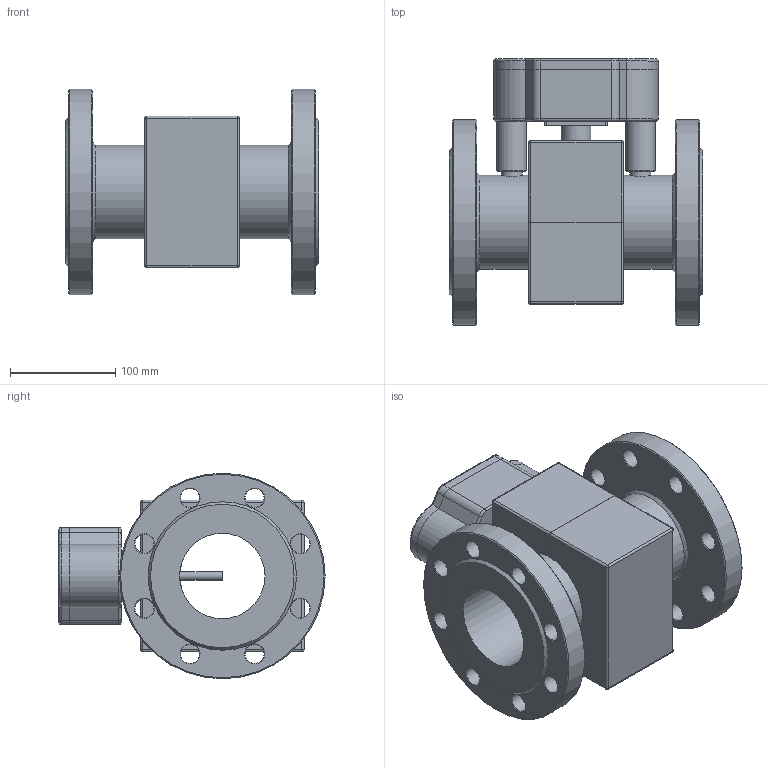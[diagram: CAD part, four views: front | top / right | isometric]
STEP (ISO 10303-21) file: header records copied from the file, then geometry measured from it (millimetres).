
FILE_DESCRIPTION(('STEP AP214'), '1');
FILE_NAME('80 È6', '2015-07-24T11:41:41', (''), (''), 'ASCON STEP Converter 1.3', 'ASCON Math Kernel', '');
FILE_SCHEMA(('AUTOMOTIVE_DESIGN { 1 0 10303 214 3 1 1}'));
Length unit declared in the file: millimetre
Products named in the file (1): 6
Bounding box: 240 x 252.5 x 195 mm (x, y, z)
Volume: 3501779.2 mm3; surface area: 388501.4 mm2
Topology: 2 solids, 2 shells, 493 faces, 1307 edges, 832 vertices
Faces by surface type: cylinder 253, plane 174, cone 46, torus 12, sphere 8
Full cylindrical faces by diameter (mm): 3.24 x4, 7 x4, 8 x1, 18 x16, 20 x2, 28 x3, 81 x1, 89 x2, 195 x2
Entity records: 19612 total; most frequent: CARTESIAN_POINT 3541, DIRECTION 2754, ORIENTED_EDGE 2428, EDGE_CURVE 1214, AXIS2_PLACEMENT_3D 1069, VERTEX_POINT 832, EDGE_LOOP 646, LINE 616
